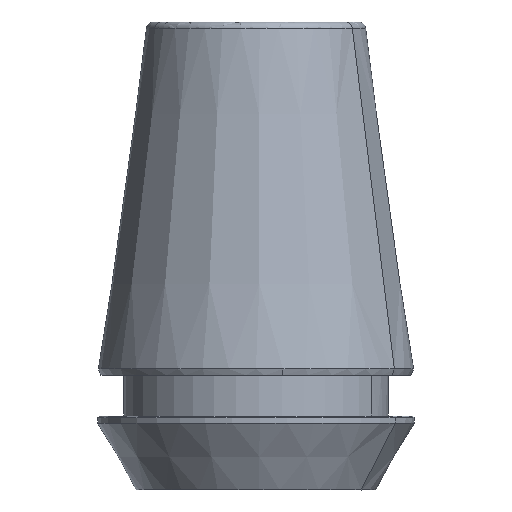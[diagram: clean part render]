
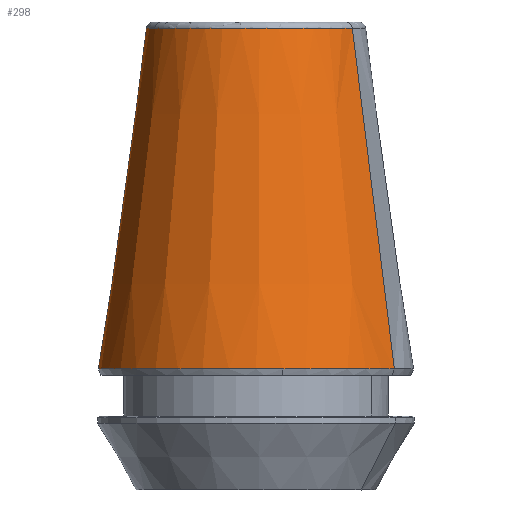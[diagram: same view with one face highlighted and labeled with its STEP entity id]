
A CAD part, front view. The second image highlights one B-rep face of the part: STEP entity #298.
In plain terms, the highlighted conical face has half-angle 8 degrees and reference radius 7.292 mm.
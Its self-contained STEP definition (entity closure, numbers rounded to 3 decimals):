
#193=AXIS2_PLACEMENT_3D('Circle Axis2P3D',#191,#192,$) ;
#262=AXIS2_PLACEMENT_3D('Circle Axis2P3D',#260,#261,$) ;
#276=AXIS2_PLACEMENT_3D('Cone Axis2P3D',#273,#274,#275) ;
#280=AXIS2_PLACEMENT_3D('Circle Axis2P3D',#278,#279,$) ;
#287=AXIS2_PLACEMENT_3D('Circle Axis2P3D',#285,#286,$) ;
#50=CARTESIAN_POINT('Vertex',(9.162,-5.005,-22.985)) ;
#120=CARTESIAN_POINT('Vertex',(-9.162,5.005,-22.985)) ;
#141=CARTESIAN_POINT('Line Origine',(61071.143,-33363.317,-495108.675)) ;
#145=CARTESIAN_POINT('Vertex',(6.38,-3.486,-0.43)) ;
#148=CARTESIAN_POINT('Line Origine',(-61071.143,33363.317,-495108.675)) ;
#152=CARTESIAN_POINT('Vertex',(-6.38,3.486,-0.43)) ;
#180=CARTESIAN_POINT('Vertex',(1.785,-10.286,-22.985)) ;
#191=CARTESIAN_POINT('Axis2P3D Location',(0.,0.,-22.985)) ;
#260=CARTESIAN_POINT('Axis2P3D Location',(0.,0.,-22.985)) ;
#273=CARTESIAN_POINT('Axis2P3D Location',(0.,0.,-0.583)) ;
#278=CARTESIAN_POINT('Axis2P3D Location',(0.,0.,-0.43)) ;
#282=CARTESIAN_POINT('Vertex',(-6.712,-2.794,-0.43)) ;
#285=CARTESIAN_POINT('Axis2P3D Location',(0.,0.,-0.43)) ;
#142=DIRECTION('Vector Direction',(0.122,-0.067,-0.99)) ;
#149=DIRECTION('Vector Direction',(-0.122,0.067,-0.99)) ;
#192=DIRECTION('Axis2P3D Direction',(0.,0.,1.)) ;
#261=DIRECTION('Axis2P3D Direction',(0.,0.,1.)) ;
#274=DIRECTION('Axis2P3D Direction',(0.,0.,-1.)) ;
#275=DIRECTION('Axis2P3D XDirection',(0.878,-0.479,0.)) ;
#279=DIRECTION('Axis2P3D Direction',(0.,0.,-1.)) ;
#286=DIRECTION('Axis2P3D Direction',(0.,0.,-1.)) ;
#143=VECTOR('Line Direction',#142,1.) ;
#150=VECTOR('Line Direction',#149,1.) ;
#291=ORIENTED_EDGE('',*,*,#154,.T.) ;
#292=ORIENTED_EDGE('',*,*,#264,.F.) ;
#293=ORIENTED_EDGE('',*,*,#195,.F.) ;
#294=ORIENTED_EDGE('',*,*,#147,.F.) ;
#295=ORIENTED_EDGE('',*,*,#284,.F.) ;
#296=ORIENTED_EDGE('',*,*,#289,.F.) ;
#298=ADVANCED_FACE('NOCUT',(#297),#277,.T.) ;
#194=CIRCLE('generated circle',#193,10.44) ;
#263=CIRCLE('generated circle',#262,10.44) ;
#281=CIRCLE('generated circle',#280,7.27) ;
#288=CIRCLE('generated circle',#287,7.27) ;
#277=CONICAL_SURFACE('Cone',#276,7.292,0.14) ;
#147=EDGE_CURVE('',#146,#51,#144,.T.) ;
#154=EDGE_CURVE('',#153,#121,#151,.T.) ;
#195=EDGE_CURVE('',#51,#181,#194,.F.) ;
#264=EDGE_CURVE('',#181,#121,#263,.F.) ;
#284=EDGE_CURVE('',#283,#146,#281,.F.) ;
#289=EDGE_CURVE('',#153,#283,#288,.F.) ;
#290=EDGE_LOOP('',(#291,#292,#293,#294,#295,#296)) ;
#297=FACE_OUTER_BOUND('',#290,.T.) ;
#144=LINE('Line',#141,#143) ;
#151=LINE('Line',#148,#150) ;
#51=VERTEX_POINT('',#50) ;
#121=VERTEX_POINT('',#120) ;
#146=VERTEX_POINT('',#145) ;
#153=VERTEX_POINT('',#152) ;
#181=VERTEX_POINT('',#180) ;
#283=VERTEX_POINT('',#282) ;
